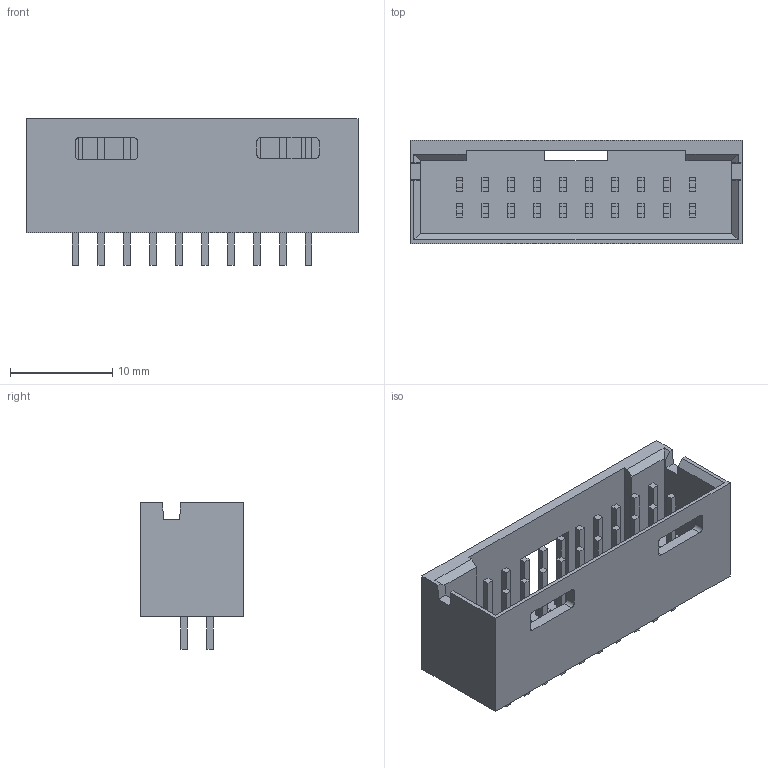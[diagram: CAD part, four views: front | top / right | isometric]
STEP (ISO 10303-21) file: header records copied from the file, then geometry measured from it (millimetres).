
FILE_DESCRIPTION((''),'2;1');
FILE_NAME('C-5-102619-8','2008-03-24T',('workeradm'),('Tyco Electronics Corporation'),'PRO/ENGINEER BY PARAMETRIC TECHNOLOGY CORPORATION, 2005450','PRO/ENGINEER BY PARAMETRIC TECHNOLOGY CORPORATION, 2005450','');
FILE_SCHEMA(('CONFIG_CONTROL_DESIGN', 'GEOMETRIC_VALIDATION_PROPERTIES_MIM'));
Length unit declared in the file: millimetre
Products named in the file (1): C-5-102619-8
Bounding box: 32.51 x 10.16 x 14.35 mm (x, y, z)
Volume: 1568.2 mm3; surface area: 2803.7 mm2
Topology: 1 solids, 1 shells, 329 faces, 863 edges, 574 vertices
Faces by surface type: plane 321, cylinder 8
Entity records: 10062 total; most frequent: CARTESIAN_POINT 1767, ORIENTED_EDGE 1726, DIRECTION 1537, EDGE_CURVE 863, VECTOR 847, LINE 847, VERTEX_POINT 574, EDGE_LOOP 373
